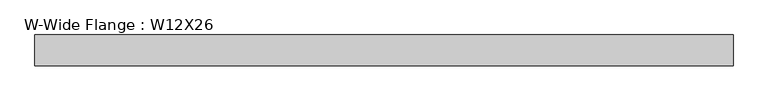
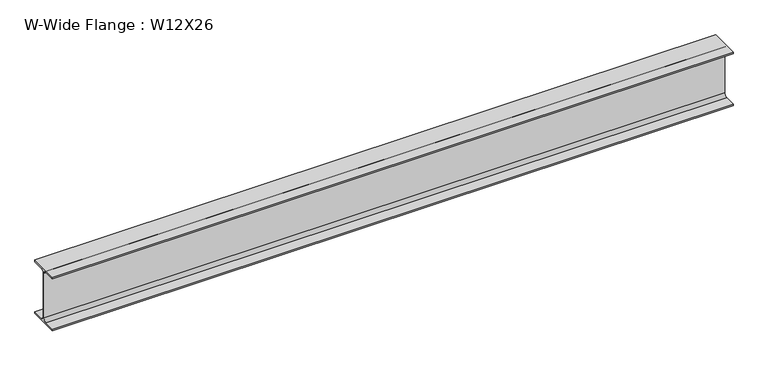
"""IFC4 building model written with IfcOpenShell, lengths in millimetres: beam geometry, W-Wide Flange : W12X26."""

from ifc_helpers import new_model, si_unit, point, frame, frame_2d, origin, place, context, project, spatial, polyline, circle_curve, trimmed, segment, composite_curve, outline, extrude, source, transform, mapped, element, save


def w_wide_flange_w12x26_3565986b(model_context):
    return source(origin(), model_context, "Body", "SweptSolid", [
        extrude(outline(composite_curve([segment(polyline([(82.4011719, -145.5539063), (82.4011719, -155.178125), (-82.4011719, -155.178125), (-82.4011719, -145.5539063), (-20.2902344, -145.5539063)]), True, "CONTINUOUS"), segment(trimmed(circle_curve(frame_2d((-20.2902344, -128.190625)), 17.3632812), [point((-20.2902344, -145.5539063))], [point((-2.9269531, -128.190625))], True, "CARTESIAN"), True, "CONTINUOUS"), segment(polyline([(-2.9269531, -128.190625), (-2.9269531, 128.190625)]), True, "CONTINUOUS"), segment(trimmed(circle_curve(frame_2d((-20.2902344, 128.190625)), 17.3632812), [point((-2.9269531, 128.190625))], [point((-20.2902344, 145.5539062))], True, "CARTESIAN"), True, "CONTINUOUS"), segment(polyline([(-20.2902344, 145.5539062), (-82.4011719, 145.5539062), (-82.4011719, 155.178125), (82.4011719, 155.178125), (82.4011719, 145.5539062), (20.2902344, 145.5539062)]), True, "CONTINUOUS"), segment(trimmed(circle_curve(frame_2d((20.2902344, 128.190625)), 17.3632812), [point((20.2902344, 145.5539062))], [point((2.9269531, 128.190625))], True, "CARTESIAN"), True, "CONTINUOUS"), segment(polyline([(2.9269531, 128.190625), (2.9269531, -128.190625)]), True, "CONTINUOUS"), segment(trimmed(circle_curve(frame_2d((20.2902344, -128.190625)), 17.3632812), [point((2.9269531, -128.190625))], [point((20.2902344, -145.5539063))], True, "CARTESIAN"), True, "CONTINUOUS"), segment(polyline([(20.2902344, -145.5539063), (82.4011719, -145.5539063)]), True, "CONTINUOUS")], self_intersect=False)), frame((-1863.6945215, 0.0, 0.0), z_axis=(1.0, 0.0, 0.0), x_axis=(0.0, 1.0, 0.0)), (0.0, 0.0, 1.0), 3727.389043),
    ])


if __name__ == "__main__":
    model = new_model("IFC4")
    model_context = context("Model", 3, world=origin())
    ifc_project = project(units=[si_unit("LENGTHUNIT", "METRE", prefix="MILLI")], contexts=[model_context])
    site = spatial("IfcSite", under=ifc_project)
    building = spatial("IfcBuilding", under=site)
    placement = place(None, origin())
    w_wide_flange_w12x26_shape = w_wide_flange_w12x26_3565986b(model_context)
    element("IfcBeam", 1, ObjectType="W-Wide Flange : W12X26", at=placement, inside=building, context=model_context, shape_type="MappedRepresentation", body=[
        mapped(w_wide_flange_w12x26_shape, transform((0.0, 0.0, 0.0), x_axis=(1.0, 0.0, 0.0), y_axis=(0.0, 1.0, 0.0), z_axis=(0.0, 0.0, 1.0))),
    ])
    save(model, "model.ifc")
